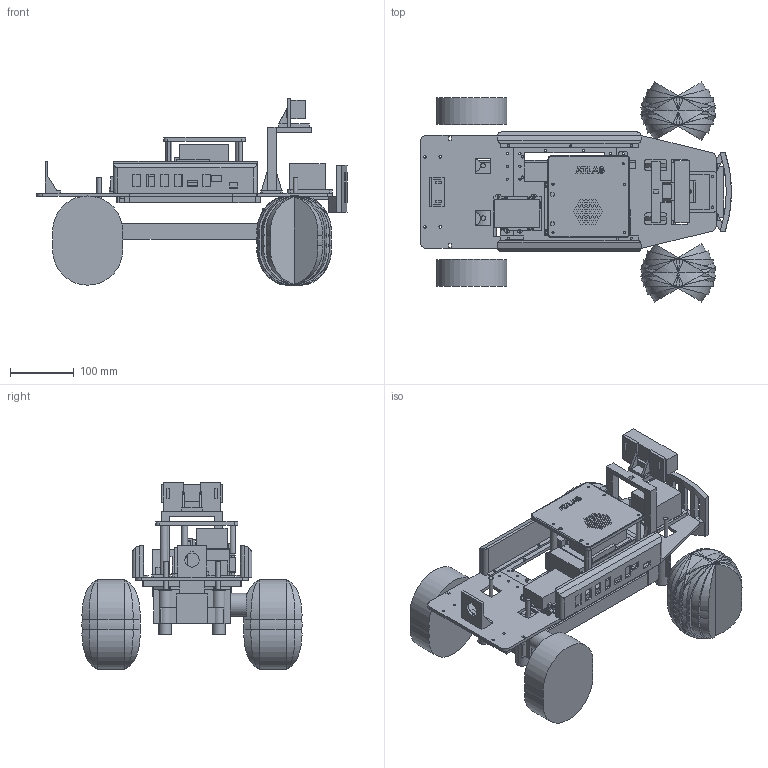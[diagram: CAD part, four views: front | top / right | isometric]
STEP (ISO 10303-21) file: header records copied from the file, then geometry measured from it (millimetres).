
FILE_DESCRIPTION(('Open CASCADE Model'),'2;1');
FILE_NAME('Open CASCADE Shape Model','2026-11-09T23:10:52',('Author'),( 'Open CASCADE'),'Open CASCADE STEP processor 7.9','Open CASCADE 7.9' ,'Unknown');
FILE_SCHEMA(('AUTOMOTIVE_DESIGN { 1 0 10303 214 1 1 1 1 }'));
Length unit declared in the file: millimetre
Products named in the file (56): car1v2_stage1; chassis_tub; chassis_gearbox; chassis_motor; chassis_centre_shaft; chassis_steering_servo; chassis_steering_linkage; chassis_front_tower; chassis_front_shock_L; chassis_front_post_L; chassis_front_shock_R; chassis_front_post_R; chassis_rear_tower; chassis_rear_shock_L; chassis_rear_post_L; chassis_rear_shock_R; chassis_rear_post_R; chassis_front_tyre_L; chassis_front_tyre_R; chassis_rear_tyre_L; chassis_rear_tyre_R; deck_rear; deck_mid; deck_front; splice_rear_left; splice_rear_right; splice_front_left; splice_front_right; bumper; side_pod_left; side_pod_right; camera_arch; devkit_tray; canopy_leg; esc_cradle; stack_canopy; c1_plinth; oakd_cradle; estop_bracket_place_is_your_choice; rplidar_c1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
Assembly tree (55 placements, depth 2):
  car1v2_stage1
    chassis_tub
    chassis_gearbox
    chassis_motor
    chassis_centre_shaft
    chassis_steering_servo
    chassis_steering_linkage
    chassis_front_tower
    chassis_front_shock_L
    chassis_front_post_L
    chassis_front_shock_R
    chassis_front_post_R
    chassis_rear_tower
    chassis_rear_shock_L
    chassis_rear_post_L
    chassis_rear_shock_R
    chassis_rear_post_R
    chassis_front_tyre_L
    chassis_front_tyre_R
    chassis_rear_tyre_L
    chassis_rear_tyre_R
    deck_rear
    deck_mid
    deck_front
    splice_rear_left
    splice_rear_right
    splice_front_left
    splice_front_right
    bumper
    side_pod_left
    side_pod_right
    camera_arch
    devkit_tray
    canopy_leg
    esc_cradle
    stack_canopy
    c1_plinth
    oakd_cradle
    estop_bracket_place_is_your_choice
    rplidar_c1
    oak_d_pro
    power_pcb
    power_parts_low
    power_parts_tall
    fet_bar
    fet_shield_acrylic
    power_standoffs_7mm
    tray_standoffs_25mm
    canopy_standoffs
    devkit_pcb
    jetson_module_and_sink
    devkit_io
    devkit_headers
    devkit_bottom_parts
    fsesc
    pod_fan_40mm
Bounding box: 488 x 345.35 x 292.43 mm (x, y, z)
Volume: 5077791.9 mm3; surface area: 1049215.4 mm2
Topology: 73 solids, 73 shells, 2336 faces, 5936 edges, 3777 vertices
Faces by surface type: plane 1637, cylinder 663, extrusion 24, cone 8, torus 4
Full cylindrical faces by diameter (mm): 2.2 x4, 2.7 x4, 3.2 x6, 3.4 x85, 4 x36, 5.5 x12, 6 x4, 6.2 x2, 6.35 x2, 6.6 x4, 7 x10, 10 x9, 12 x1, 20 x4, 36 x1
Entity records: 152336 total; most frequent: CARTESIAN_POINT 34648, DIRECTION 20452, ORIENTED_EDGE 11872, PCURVE 11872, DEFINITIONAL_REPRESENTATION 11872, VECTOR 11236, LINE 11212, EDGE_CURVE 5936
